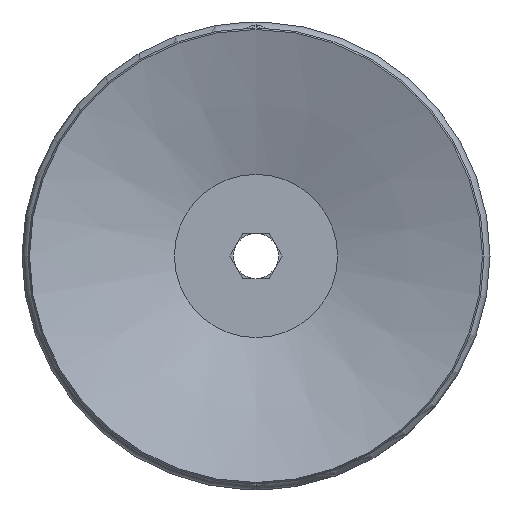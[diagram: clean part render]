
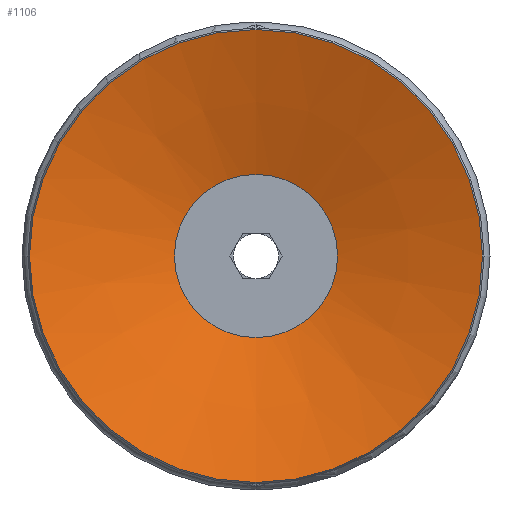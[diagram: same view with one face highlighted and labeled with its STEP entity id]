
A CAD part, front view. The second image highlights one B-rep face of the part: STEP entity #1106.
In plain terms, the highlighted conical face has half-angle 71.075 degrees and reference radius 15 mm.
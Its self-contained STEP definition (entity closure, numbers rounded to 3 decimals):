
#1106=ADVANCED_FACE('',(#2778,#2779),#2780,.F.);
#2778=FACE_BOUND('',#5095,.T.);
#2779=FACE_OUTER_BOUND('',#5096,.T.);
#2780=CONICAL_SURFACE('',#5097,15.0,1.24);
#5095=EDGE_LOOP('',(#8370));
#5096=EDGE_LOOP('',(#8371));
#5097=AXIS2_PLACEMENT_3D('',#8372,#8373,#8374);
#8370=ORIENTED_EDGE('',*,*,#15094,.T.);
#8371=ORIENTED_EDGE('',*,*,#15095,.T.);
#8372=CARTESIAN_POINT('',(0.,0.,0.0));
#8373=DIRECTION('',(0.0,0.,-1.0));
#8374=DIRECTION('',(0.0,1.0,0.));
#15094=EDGE_CURVE('',#18622,#18622,#18623,.T.);
#15095=EDGE_CURVE('',#18624,#18624,#18625,.T.);
#18622=VERTEX_POINT('',#24703);
#18623=CIRCLE('',#24704,5.4);
#18624=VERTEX_POINT('',#24705);
#18625=CIRCLE('',#24706,15.0);
#24703=CARTESIAN_POINT('',(-5.4,0.,3.291));
#24704=AXIS2_PLACEMENT_3D('',#30036,#30037,#30038);
#24705=CARTESIAN_POINT('',(0.,15.0,0.));
#24706=AXIS2_PLACEMENT_3D('',#30039,#30040,#30041);
#30036=CARTESIAN_POINT('',(0.,0.,3.291));
#30037=DIRECTION('',(0.,0.0,1.0));
#30038=DIRECTION('',(-1.0,0.0,0.));
#30039=CARTESIAN_POINT('',(0.,0.,0.0));
#30040=DIRECTION('',(0.0,0.,-1.0));
#30041=DIRECTION('',(0.0,1.0,0.));
